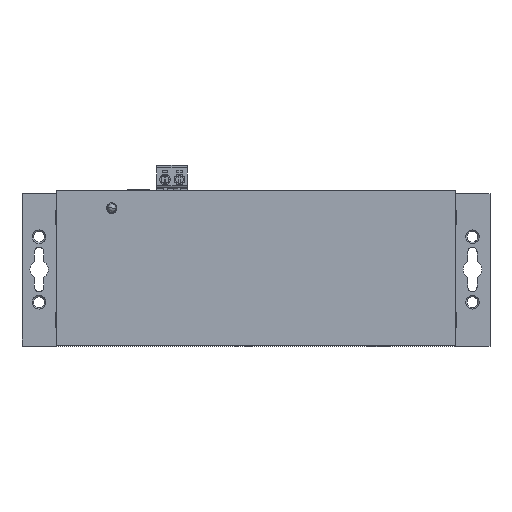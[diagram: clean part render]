
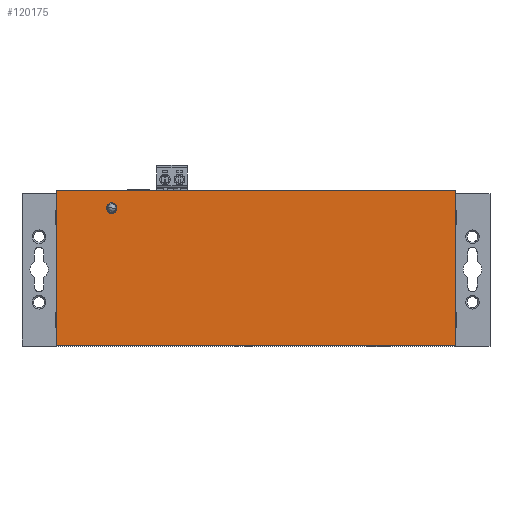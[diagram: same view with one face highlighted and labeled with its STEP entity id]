
A CAD part, top view. The second image highlights one B-rep face of the part: STEP entity #120175.
In plain terms, the highlighted planar face has unit normal (0, 0, 1).
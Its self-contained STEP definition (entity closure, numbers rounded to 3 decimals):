
#1834 = PLANE('',#1835);
#1835 = AXIS2_PLACEMENT_3D('',#1836,#1837,#1838);
#1836 = CARTESIAN_POINT('',(165.6,0.,1.));
#1837 = DIRECTION('',(1.,0.,0.));
#1838 = DIRECTION('',(0.,0.,1.));
#4032 = PLANE('',#4033);
#4033 = AXIS2_PLACEMENT_3D('',#4034,#4035,#4036);
#4034 = CARTESIAN_POINT('',(13.,0.,1.));
#4035 = DIRECTION('',(1.,0.,0.));
#4036 = DIRECTION('',(0.,0.,1.));
#41762 = CYLINDRICAL_SURFACE('',#41763,2.);
#41763 = AXIS2_PLACEMENT_3D('',#41764,#41765,#41766);
#41764 = CARTESIAN_POINT('',(34.25,52.6,16.1));
#41765 = DIRECTION('',(0.,0.,1.));
#41766 = DIRECTION('',(1.,0.,0.));
#42077 = PLANE('',#42078);
#42078 = AXIS2_PLACEMENT_3D('',#42079,#42080,#42081);
#42079 = CARTESIAN_POINT('',(89.3,0.,10.17));
#42080 = DIRECTION('',(-0.,-1.,-0.));
#42081 = DIRECTION('',(0.,0.,-1.));
#84609 = EDGE_CURVE('',#84610,#84610,#84612,.T.);
#84610 = VERTEX_POINT('',#84611);
#84611 = CARTESIAN_POINT('',(36.25,52.6,23.2));
#84612 = SURFACE_CURVE('',#84613,(#84618,#84625),.PCURVE_S1.);
#84613 = CIRCLE('',#84614,2.);
#84614 = AXIS2_PLACEMENT_3D('',#84615,#84616,#84617);
#84615 = CARTESIAN_POINT('',(34.25,52.6,23.2));
#84616 = DIRECTION('',(0.,0.,1.));
#84617 = DIRECTION('',(1.,0.,0.));
#84618 = PCURVE('',#41762,#84619);
#84619 = DEFINITIONAL_REPRESENTATION('',(#84620),#84624);
#84620 = LINE('',#84621,#84622);
#84621 = CARTESIAN_POINT('',(0.,7.1));
#84622 = VECTOR('',#84623,1.);
#84623 = DIRECTION('',(1.,0.));
#84624 = ( GEOMETRIC_REPRESENTATION_CONTEXT(2) 
PARAMETRIC_REPRESENTATION_CONTEXT() REPRESENTATION_CONTEXT('2D SPACE',''
  ) );
#84625 = PCURVE('',#84626,#84631);
#84626 = PLANE('',#84627);
#84627 = AXIS2_PLACEMENT_3D('',#84628,#84629,#84630);
#84628 = CARTESIAN_POINT('',(0.,0.,23.2));
#84629 = DIRECTION('',(0.,0.,1.));
#84630 = DIRECTION('',(1.,0.,0.));
#84631 = DEFINITIONAL_REPRESENTATION('',(#84632),#84636);
#84632 = CIRCLE('',#84633,2.);
#84633 = AXIS2_PLACEMENT_2D('',#84634,#84635);
#84634 = CARTESIAN_POINT('',(34.25,52.6));
#84635 = DIRECTION('',(1.,0.));
#84636 = ( GEOMETRIC_REPRESENTATION_CONTEXT(2) 
PARAMETRIC_REPRESENTATION_CONTEXT() REPRESENTATION_CONTEXT('2D SPACE',''
  ) );
#116786 = PLANE('',#116787);
#116787 = AXIS2_PLACEMENT_3D('',#116788,#116789,#116790);
#116788 = CARTESIAN_POINT('',(0.,59.2,0.));
#116789 = DIRECTION('',(0.,1.,0.));
#116790 = DIRECTION('',(0.,0.,1.));
#120175 = ADVANCED_FACE('',(#120176,#120268),#84626,.T.);
#120176 = FACE_BOUND('',#120177,.T.);
#120177 = EDGE_LOOP('',(#120178,#120203,#120225,#120248));
#120178 = ORIENTED_EDGE('',*,*,#120179,.F.);
#120179 = EDGE_CURVE('',#120180,#120182,#120184,.T.);
#120180 = VERTEX_POINT('',#120181);
#120181 = CARTESIAN_POINT('',(13.,59.2,23.2));
#120182 = VERTEX_POINT('',#120183);
#120183 = CARTESIAN_POINT('',(165.6,59.2,23.2));
#120184 = SURFACE_CURVE('',#120185,(#120189,#120196),.PCURVE_S1.);
#120185 = LINE('',#120186,#120187);
#120186 = CARTESIAN_POINT('',(0.,59.2,23.2));
#120187 = VECTOR('',#120188,1.);
#120188 = DIRECTION('',(1.,0.,0.));
#120189 = PCURVE('',#84626,#120190);
#120190 = DEFINITIONAL_REPRESENTATION('',(#120191),#120195);
#120191 = LINE('',#120192,#120193);
#120192 = CARTESIAN_POINT('',(0.,59.2));
#120193 = VECTOR('',#120194,1.);
#120194 = DIRECTION('',(1.,0.));
#120195 = ( GEOMETRIC_REPRESENTATION_CONTEXT(2) 
PARAMETRIC_REPRESENTATION_CONTEXT() REPRESENTATION_CONTEXT('2D SPACE',''
  ) );
#120196 = PCURVE('',#116786,#120197);
#120197 = DEFINITIONAL_REPRESENTATION('',(#120198),#120202);
#120198 = LINE('',#120199,#120200);
#120199 = CARTESIAN_POINT('',(23.2,0.));
#120200 = VECTOR('',#120201,1.);
#120201 = DIRECTION('',(0.,1.));
#120202 = ( GEOMETRIC_REPRESENTATION_CONTEXT(2) 
PARAMETRIC_REPRESENTATION_CONTEXT() REPRESENTATION_CONTEXT('2D SPACE',''
  ) );
#120203 = ORIENTED_EDGE('',*,*,#120204,.F.);
#120204 = EDGE_CURVE('',#120205,#120180,#120207,.T.);
#120205 = VERTEX_POINT('',#120206);
#120206 = CARTESIAN_POINT('',(13.,0.,23.2));
#120207 = SURFACE_CURVE('',#120208,(#120212,#120218),.PCURVE_S1.);
#120208 = LINE('',#120209,#120210);
#120209 = CARTESIAN_POINT('',(13.,0.,23.2));
#120210 = VECTOR('',#120211,1.);
#120211 = DIRECTION('',(0.,1.,0.));
#120212 = PCURVE('',#84626,#120213);
#120213 = DEFINITIONAL_REPRESENTATION('',(#120214),#120217);
#120214 = B_SPLINE_CURVE_WITH_KNOTS('',1,(#120215,#120216),
  .UNSPECIFIED.,.F.,.F.,(2,2),(-5.92,65.12),.PIECEWISE_BEZIER_KNOTS.);
#120215 = CARTESIAN_POINT('',(13.,-5.92));
#120216 = CARTESIAN_POINT('',(13.,65.12));
#120217 = ( GEOMETRIC_REPRESENTATION_CONTEXT(2) 
PARAMETRIC_REPRESENTATION_CONTEXT() REPRESENTATION_CONTEXT('2D SPACE',''
  ) );
#120218 = PCURVE('',#4032,#120219);
#120219 = DEFINITIONAL_REPRESENTATION('',(#120220),#120224);
#120220 = LINE('',#120221,#120222);
#120221 = CARTESIAN_POINT('',(22.2,0.));
#120222 = VECTOR('',#120223,1.);
#120223 = DIRECTION('',(0.,-1.));
#120224 = ( GEOMETRIC_REPRESENTATION_CONTEXT(2) 
PARAMETRIC_REPRESENTATION_CONTEXT() REPRESENTATION_CONTEXT('2D SPACE',''
  ) );
#120225 = ORIENTED_EDGE('',*,*,#120226,.T.);
#120226 = EDGE_CURVE('',#120205,#120227,#120229,.T.);
#120227 = VERTEX_POINT('',#120228);
#120228 = CARTESIAN_POINT('',(165.6,0.,23.2));
#120229 = SURFACE_CURVE('',#120230,(#120234,#120241),.PCURVE_S1.);
#120230 = LINE('',#120231,#120232);
#120231 = CARTESIAN_POINT('',(0.,0.,23.2));
#120232 = VECTOR('',#120233,1.);
#120233 = DIRECTION('',(1.,0.,0.));
#120234 = PCURVE('',#84626,#120235);
#120235 = DEFINITIONAL_REPRESENTATION('',(#120236),#120240);
#120236 = LINE('',#120237,#120238);
#120237 = CARTESIAN_POINT('',(0.,0.));
#120238 = VECTOR('',#120239,1.);
#120239 = DIRECTION('',(1.,0.));
#120240 = ( GEOMETRIC_REPRESENTATION_CONTEXT(2) 
PARAMETRIC_REPRESENTATION_CONTEXT() REPRESENTATION_CONTEXT('2D SPACE',''
  ) );
#120241 = PCURVE('',#42077,#120242);
#120242 = DEFINITIONAL_REPRESENTATION('',(#120243),#120247);
#120243 = LINE('',#120244,#120245);
#120244 = CARTESIAN_POINT('',(-13.03,-89.3));
#120245 = VECTOR('',#120246,1.);
#120246 = DIRECTION('',(0.,1.));
#120247 = ( GEOMETRIC_REPRESENTATION_CONTEXT(2) 
PARAMETRIC_REPRESENTATION_CONTEXT() REPRESENTATION_CONTEXT('2D SPACE',''
  ) );
#120248 = ORIENTED_EDGE('',*,*,#120249,.T.);
#120249 = EDGE_CURVE('',#120227,#120182,#120250,.T.);
#120250 = SURFACE_CURVE('',#120251,(#120255,#120261),.PCURVE_S1.);
#120251 = LINE('',#120252,#120253);
#120252 = CARTESIAN_POINT('',(165.6,0.,23.2));
#120253 = VECTOR('',#120254,1.);
#120254 = DIRECTION('',(0.,1.,0.));
#120255 = PCURVE('',#84626,#120256);
#120256 = DEFINITIONAL_REPRESENTATION('',(#120257),#120260);
#120257 = B_SPLINE_CURVE_WITH_KNOTS('',1,(#120258,#120259),
  .UNSPECIFIED.,.F.,.F.,(2,2),(-5.92,65.12),.PIECEWISE_BEZIER_KNOTS.);
#120258 = CARTESIAN_POINT('',(165.6,-5.92));
#120259 = CARTESIAN_POINT('',(165.6,65.12));
#120260 = ( GEOMETRIC_REPRESENTATION_CONTEXT(2) 
PARAMETRIC_REPRESENTATION_CONTEXT() REPRESENTATION_CONTEXT('2D SPACE',''
  ) );
#120261 = PCURVE('',#1834,#120262);
#120262 = DEFINITIONAL_REPRESENTATION('',(#120263),#120267);
#120263 = LINE('',#120264,#120265);
#120264 = CARTESIAN_POINT('',(22.2,0.));
#120265 = VECTOR('',#120266,1.);
#120266 = DIRECTION('',(0.,-1.));
#120267 = ( GEOMETRIC_REPRESENTATION_CONTEXT(2) 
PARAMETRIC_REPRESENTATION_CONTEXT() REPRESENTATION_CONTEXT('2D SPACE',''
  ) );
#120268 = FACE_BOUND('',#120269,.T.);
#120269 = EDGE_LOOP('',(#120270));
#120270 = ORIENTED_EDGE('',*,*,#84609,.F.);
